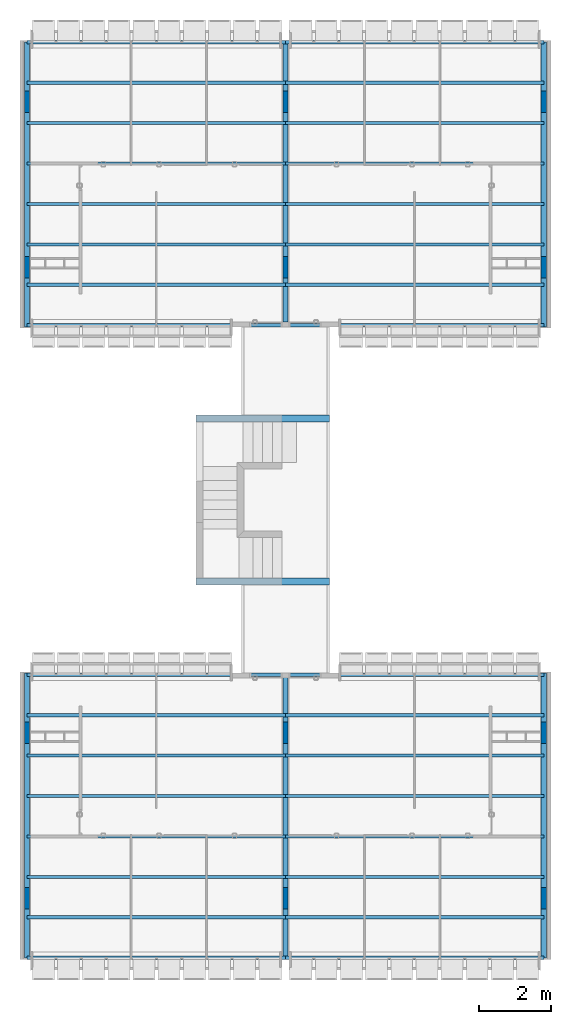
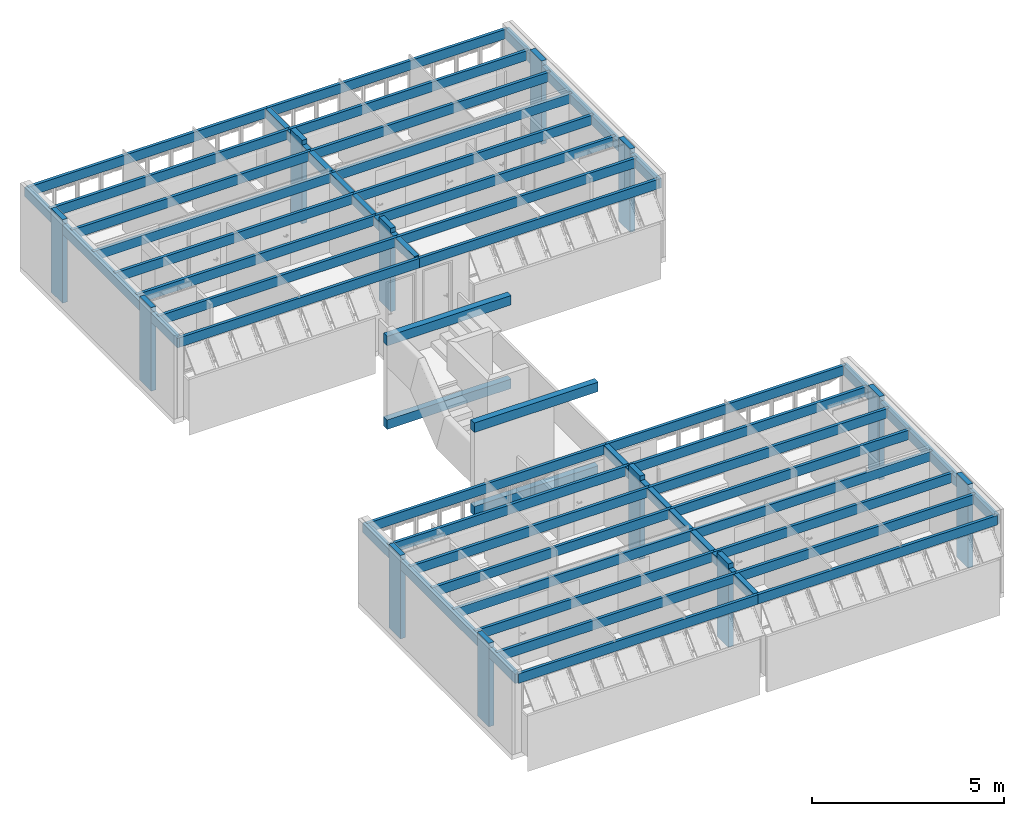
# One storey, part 1 of 40: 42 beams, 12 columns.
"""IFC4 building model written with IfcOpenShell, lengths in millimetres."""

import ifcopenshell
import ifcopenshell.guid

model = None  # the IFC model being written
_history = None  # IfcOwnerHistory: only IFC2X3 demands one
_inside = {}  # id of a spatial element -> (the spatial element, [elements in it])
_under = {}  # id of a project, library or spatial element -> (it, [spatial elements below it])
_declared = {}  # id of a project -> (the project, [libraries it declares])
_typed = {}  # id of a type object -> (the type object, [elements of that type])
_made_of = {}  # id of a material, layer set ... -> (it, [elements and type objects made of it])


def new_model(schema):
    """Start an empty IFC model of exactly this schema.

    Asked for "IFC4X3", IfcOpenShell would pick the latest addendum, in which some entities
    have other attributes; the version numbers below select the first issue.
    IFC2X3 requires an IfcOwnerHistory on every rooted entity: one is made here for all.
    """
    global model, _history
    if schema == "IFC4X3":
        model = ifcopenshell.file(schema_version=(4, 3, 0, 0))
    else:
        model = ifcopenshell.file(schema=schema)
    _inside.clear()
    _under.clear()
    _declared.clear()
    _typed.clear()
    _made_of.clear()
    _history = None
    if model.schema == "IFC2X3":
        org = make("IfcOrganization", Name="unknown")
        user = make(
            "IfcPersonAndOrganization",
            ThePerson=make("IfcPerson", FamilyName="unknown"),
            TheOrganization=org,
        )
        app = make(
            "IfcApplication",
            ApplicationDeveloper=org,
            Version="unknown",
            ApplicationFullName="unknown",
            ApplicationIdentifier="unknown",
        )
        _history = make(
            "IfcOwnerHistory",
            OwningUser=user,
            OwningApplication=app,
            ChangeAction="ADDED",
            CreationDate=0,
        )
    return model


def make(cls, **values):
    """One entity of the class cls with the attributes given. An attribute that is None is left unset."""
    return model.create_entity(
        cls, **{name: value for name, value in values.items() if value is not None}
    )


def entity(cls, *values):
    """Any entity or typed value of the class cls, its attributes in the order of the schema. None: left unset."""
    e = model.create_entity(cls)
    for i, value in enumerate(values):
        if value is not None:
            e[i] = value
    return e


def rooted(cls, **values):
    """An entity with a GlobalId (a new one), such as an element, a storey or a relation."""
    return make(cls, GlobalId=ifcopenshell.guid.new(), OwnerHistory=_history, **values)


def si_unit(unit_type, name, prefix=None):
    """IfcSIUnit, for example si_unit("LENGTHUNIT", "METRE", prefix="MILLI")."""
    return make("IfcSIUnit", UnitType=unit_type, Prefix=prefix, Name=name)


def converted_unit(unit_type, name, factor, base, dimensions=None, offset=None):
    """IfcConversionBasedUnit, such as the inch: factor (a typed value) times the base unit."""
    return make(
        "IfcConversionBasedUnit"
        if offset is None
        else "IfcConversionBasedUnitWithOffset",
        ConversionOffset=offset,
        Dimensions=None
        if dimensions is None
        else entity("IfcDimensionalExponents", *dimensions),
        UnitType=unit_type,
        Name=name,
        ConversionFactor=make(
            "IfcMeasureWithUnit", ValueComponent=factor, UnitComponent=base
        ),
    )


def derived_unit(unit_type, elements):
    """IfcDerivedUnit: a product of units, each with its exponent."""
    return make(
        "IfcDerivedUnit",
        Elements=[
            make("IfcDerivedUnitElement", Unit=unit, Exponent=power)
            for unit, power in elements
        ],
        UnitType=unit_type,
    )


def assignment(units):
    """IfcUnitAssignment: the units of a project."""
    return None if units is None else make("IfcUnitAssignment", Units=units)


def point(xyz):
    """IfcCartesianPoint."""
    return None if xyz is None else make("IfcCartesianPoint", Coordinates=xyz)


def direction(xyz):
    """IfcDirection."""
    return None if xyz is None else make("IfcDirection", DirectionRatios=xyz)


def frame(location, z_axis=None, x_axis=None):
    """IfcAxis2Placement3D, a coordinate frame: its origin and axes. An axis left out is left unset."""
    return make(
        "IfcAxis2Placement3D",
        Location=point(location),
        Axis=direction(z_axis),
        RefDirection=direction(x_axis),
    )


def frame_2d(location, x_axis=None):
    """IfcAxis2Placement2D, a coordinate frame in the plane: its origin and x axis."""
    return make(
        "IfcAxis2Placement2D", Location=point(location), RefDirection=direction(x_axis)
    )


def origin_with_axes():
    """The frame at (0, 0, 0) with the z axis (0, 0, 1) and the x axis (1, 0, 0) written out."""
    return frame((0.0, 0.0, 0.0), z_axis=(0.0, 0.0, 1.0), x_axis=(1.0, 0.0, 0.0))


def origin_2d_with_axis():
    """The frame at (0, 0) in the plane with the x axis (1, 0) written out."""
    return frame_2d((0.0, 0.0), x_axis=(1.0, 0.0))


def place(relative_to, where):
    """IfcLocalPlacement: puts the frame where relative to a parent placement (None: the world)."""
    return make(
        "IfcLocalPlacement", PlacementRelTo=relative_to, RelativePlacement=where
    )


def context(
    kind, dimensions, precision=None, world=None, true_north=None, identifier=None
):
    """IfcGeometricRepresentationContext, for example the 3D "Model" context."""
    return make(
        "IfcGeometricRepresentationContext",
        ContextIdentifier=identifier,
        ContextType=kind,
        CoordinateSpaceDimension=dimensions,
        Precision=precision,
        WorldCoordinateSystem=world,
        TrueNorth=true_north,
    )


def subcontext(parent, identifier, kind, view, scale=None):
    """IfcGeometricRepresentationSubContext, for example "Body" below "Model"."""
    return make(
        "IfcGeometricRepresentationSubContext",
        ContextIdentifier=identifier,
        ContextType=kind,
        ParentContext=parent,
        TargetScale=scale,
        TargetView=view,
    )


def project(units=None, contexts=None):
    """IfcProject with its units and contexts."""
    return rooted(
        "IfcProject",
        Name="project",
        RepresentationContexts=contexts,
        UnitsInContext=assignment(units),
    )


def spatial(cls, under=None, at=None, **own):
    """A site, building, storey or space (cls), placed at a placement, below another one or the project."""
    s = rooted(cls, ObjectPlacement=at, **own)
    if under is not None:
        _under.setdefault(under.id(), (under, []))[1].append(s)
    return s


def profile(cls, at=None, kind="AREA", **sizes):
    """A parametric profile (cls). Its sizes go by their IFC names, for example OverallWidth=200.0."""
    return make(cls, ProfileType=kind, Position=at, **sizes)


def rectangle(**sizes):
    """IfcRectangleProfileDef."""
    return profile("IfcRectangleProfileDef", **sizes)


def extrude(swept, where, along, depth):
    """IfcExtrudedAreaSolid: the profile swept, set in the frame where, extruded along a direction by depth."""
    return make(
        "IfcExtrudedAreaSolid",
        SweptArea=swept,
        Position=where,
        ExtrudedDirection=direction(along),
        Depth=depth,
    )


def shape(context_of_items, identifier, shape_type, items):
    """IfcShapeRepresentation: the items that make up one representation, for example the "Body"."""
    return make(
        "IfcShapeRepresentation",
        ContextOfItems=context_of_items,
        RepresentationIdentifier=identifier,
        RepresentationType=shape_type,
        Items=items,
    )


def material(Name=None, Category=None):
    """IfcMaterial."""
    return make("IfcMaterial", Name=Name, Category=Category)


def made_of(thing, what):
    """Note that an element or type object is made of a material, layer set ...; save() writes the relation."""
    if what is not None:
        _made_of.setdefault(what.id(), (what, []))[1].append(thing)
    return thing


def type_object(cls, material=None, **own):
    """A type object (cls), such as IfcWallType, which elements share."""
    return made_of(rooted(cls, **own), material)


def element(
    cls,
    number,
    at=None,
    inside=None,
    cuts=None,
    type_object=None,
    material=None,
    context=None,
    identifier="Body",
    shape_type=None,
    held_by="IfcProductDefinitionShape",
    body=None,
    shapes=None,
    **own,
):
    """One element of the class cls, such as IfcWall. Its Tag is "e" and its number.

    at: its placement. inside: the storey or other place that contains it. cuts: it is an
    opening in that element (IfcRelVoidsElement). A single representation is given by context,
    identifier, shape_type and body (its items); several are given by shapes. held_by: the class
    of the entity that holds the representations. save() writes the other relations.
    """
    e = rooted(cls, Tag="e%d" % number, ObjectPlacement=at, **own)
    if body is not None:
        shapes = [shape(context, identifier, shape_type, body)]
    if shapes is not None:
        e.Representation = make(held_by, Representations=shapes)
    if inside is not None:
        _inside.setdefault(inside.id(), (inside, []))[1].append(e)
    if cuts is not None:
        rooted(
            "IfcRelVoidsElement", RelatingBuildingElement=cuts, RelatedOpeningElement=e
        )
    if type_object is not None:
        _typed.setdefault(type_object.id(), (type_object, []))[1].append(e)
    return made_of(e, material)


def aggregate(whole, parts):
    """IfcRelAggregates: a whole, such as a stair, and the parts it consists of."""
    return rooted("IfcRelAggregates", RelatingObject=whole, RelatedObjects=parts)


def save(model, path):
    """Write the relations noted so far, then the file.

    IfcRelAggregates (storeys below a building ...), IfcRelContainedInSpatialStructure (elements
    in a storey), IfcRelDefinesByType, IfcRelAssociatesMaterial and IfcRelDeclares: one each for
    every whole, place, type object, material and project.
    """
    for whole, parts in _under.values():
        aggregate(whole, parts)
    for where, things in _inside.values():
        rooted(
            "IfcRelContainedInSpatialStructure",
            RelatedElements=things,
            RelatingStructure=where,
        )
    for kind, things in _typed.values():
        rooted("IfcRelDefinesByType", RelatedObjects=things, RelatingType=kind)
    for what, things in _made_of.values():
        rooted("IfcRelAssociatesMaterial", RelatedObjects=things, RelatingMaterial=what)
    for by, libraries in _declared.values():
        rooted("IfcRelDeclares", RelatingContext=by, RelatedDefinitions=libraries)
    model.write(path)


model = new_model("IFC4")

# Units and contexts
model_context = context("Model", 3, precision=0.01, world=origin_with_axes(), true_north=direction((0.0, 1.0)))
body_context = subcontext(model_context, "Body", "Model", "MODEL_VIEW")
ifc_project = project(units=[si_unit("LENGTHUNIT", "METRE", prefix="MILLI"), si_unit("AREAUNIT", "SQUARE_METRE"), si_unit("VOLUMEUNIT", "CUBIC_METRE"), converted_unit("PLANEANGLEUNIT", "DEGREE", entity("IfcPlaneAngleMeasure", 0.0174532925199), si_unit("PLANEANGLEUNIT", "RADIAN"), dimensions=[0, 0, 0, 0, 0, 0, 0]), converted_unit("TIMEUNIT", "Year", entity("IfcTimeMeasure", 31556926.0), si_unit("TIMEUNIT", "SECOND"), dimensions=[0, 0, 1, 0, 0, 0, 0]), si_unit("MASSUNIT", "GRAM", prefix="KILO"), si_unit("THERMODYNAMICTEMPERATUREUNIT", "DEGREE_CELSIUS"), si_unit("LUMINOUSINTENSITYUNIT", "LUMEN"), si_unit("ENERGYUNIT", "JOULE", prefix="MEGA"), derived_unit("THERMALCONDUCTANCEUNIT", [(si_unit("POWERUNIT", "WATT"), 1), (si_unit("LENGTHUNIT", "METRE"), -1), (si_unit("THERMODYNAMICTEMPERATUREUNIT", "KELVIN"), -1)]), derived_unit("SPECIFICHEATCAPACITYUNIT", [(si_unit("ENERGYUNIT", "JOULE"), 1), (si_unit("MASSUNIT", "GRAM", prefix="KILO"), -1), (si_unit("THERMODYNAMICTEMPERATUREUNIT", "KELVIN"), -1)]), derived_unit("MASSDENSITYUNIT", [(si_unit("MASSUNIT", "GRAM", prefix="KILO"), 1), (si_unit("VOLUMEUNIT", "CUBIC_METRE"), -1)])], contexts=[model_context])

# Site, building, storey
site_placement = place(None, origin_with_axes())
site = spatial("IfcSite", under=ifc_project, at=site_placement, Name="Local", CompositionType="ELEMENT")
building_placement = place(site_placement, origin_with_axes())
building = spatial("IfcBuilding", under=site, at=building_placement, Name="Construção", CompositionType="ELEMENT")
storey_placement = place(building_placement, origin_with_axes())
storey = spatial("IfcBuildingStorey", under=building, at=storey_placement, Name="Primeiro Pavimento", CompositionType="ELEMENT", Elevation=0.0)

# Columns
ifc_material = material(Name="Concreto Armado Moldado in Loco - Estrutural")
column_type = type_object("IfcColumnType", Name="Concreto Armado Moldado in Loco - Estrutural 600 x 150", PredefinedType="NOTDEFINED")
for number, where, z_axis, x_axis, name in (
    (1, (14575.0, 19560.0, 0.0), (0.0, 0.0, 1.0), (0.0, 1.0, 0.0), "APTO4-PILAR-001"),
    (2, (14575.0, 24160.0, 0.0), (0.0, 0.0, 1.0), (0.0, 1.0, 0.0), "APTO4-PILAR-000"),
):
    element("IfcColumn", number, at=place(storey_placement, frame(where, z_axis=z_axis, x_axis=x_axis)), inside=storey, type_object=column_type, material=ifc_material, Name=name, PredefinedType="NOTDEFINED", context=body_context, shape_type="SweptSolid", body=[
        extrude(rectangle(XDim=600.0, YDim=150.0, at=origin_2d_with_axis()), origin_with_axes(), (0.0, 0.0, 1.0), 2650.0),
    ])
for number, where, z_axis, x_axis, name in (
    (3, (14575.0, 2000.0, 0.0), (0.0, 0.0, 1.0), (0.0, 1.0, 0.0), "APTO2-PILAR-000"),
    (4, (14575.0, 6600.0, 0.0), (0.0, 0.0, 1.0), (0.0, 1.0, 0.0), "APTO2-PILAR-001"),
    (5, (195.0, 24160.0, 0.0), (0.0, 0.0, 1.0), (0.0, -1.0, 0.0), "APTO3-PILAR-000"),
    (6, (195.0, 19560.0, 0.0), (0.0, 0.0, 1.0), (0.0, -1.0, 0.0), "APTO3-PILAR-001"),
):
    element("IfcColumn", number, at=place(storey_placement, frame(where, z_axis=z_axis, x_axis=x_axis)), inside=storey, type_object=column_type, material=ifc_material, Name=name, PredefinedType="NOTDEFINED", context=body_context, shape_type="SweptSolid", body=[
        extrude(rectangle(XDim=600.0, YDim=150.0, at=origin_2d_with_axis()), frame((0.0, 0.0, 0.0), z_axis=(0.0, 0.0, -1.0), x_axis=(-1.0, 0.0, 0.0)), (0.0, 0.0, -1.0), 2650.0),
    ])
for number, where, z_axis, x_axis, name in (
    (7, (195.0, 6600.0, 0.0), (0.0, 0.0, 1.0), (0.0, -1.0, 0.0), "APTO1-PILAR-001"),
    (8, (195.0, 2000.0, 0.0), (0.0, 0.0, 1.0), (0.0, -1.0, 0.0), "APTO1-PILAR-000"),
):
    element("IfcColumn", number, at=place(storey_placement, frame(where, z_axis=z_axis, x_axis=x_axis)), inside=storey, type_object=column_type, material=ifc_material, Name=name, PredefinedType="NOTDEFINED", context=body_context, shape_type="SweptSolid", body=[
        extrude(rectangle(XDim=600.0, YDim=150.0, at=origin_2d_with_axis()), origin_with_axes(), (0.0, 0.0, 1.0), 2650.0),
    ])
column_1_placement = place(storey_placement, frame((7385.0, 19560.0, 0.0), z_axis=(0.0, 0.0, 1.0), x_axis=(0.0, -1.0, 0.0)))
element("IfcColumn", 9, at=column_1_placement, inside=storey, type_object=column_type, material=ifc_material, Name="CIRC1-PILAR-004", PredefinedType="NOTDEFINED", context=body_context, shape_type="SweptSolid", body=[
    extrude(rectangle(XDim=600.0, YDim=150.0, at=origin_2d_with_axis()), frame((0.0, 0.0, 0.0), z_axis=(0.0, 0.0, -1.0), x_axis=(-1.0, 0.0, 0.0)), (0.0, 0.0, -1.0), 2650.0),
])
for number, where, z_axis, x_axis, name in (
    (10, (7385.0, 2000.0, 0.0), (0.0, 0.0, 1.0), (0.0, -1.0, 0.0), "CIRC1-PILAR-002"),
    (11, (7385.0, 6600.0, 0.0), (0.0, 0.0, 1.0), (0.0, -1.0, 0.0), "CIRC1-PILAR-003"),
):
    element("IfcColumn", number, at=place(storey_placement, frame(where, z_axis=z_axis, x_axis=x_axis)), inside=storey, type_object=column_type, material=ifc_material, Name=name, PredefinedType="NOTDEFINED", context=body_context, shape_type="SweptSolid", body=[
        extrude(rectangle(XDim=600.0, YDim=150.0, at=origin_2d_with_axis()), origin_with_axes(), (0.0, 0.0, 1.0), 2650.0),
    ])
column_2_placement = place(storey_placement, frame((7385.0, 24160.0, 0.0), z_axis=(0.0, 0.0, 1.0), x_axis=(0.0, -1.0, 0.0)))
element("IfcColumn", 12, at=column_2_placement, inside=storey, type_object=column_type, material=ifc_material, Name="CIRC1-PILAR-005", PredefinedType="NOTDEFINED", context=body_context, shape_type="SweptSolid", body=[
    extrude(rectangle(XDim=600.0, YDim=150.0, at=origin_2d_with_axis()), frame((0.0, 0.0, 0.0), z_axis=(0.0, 0.0, -1.0), x_axis=(-1.0, 0.0, 0.0)), (0.0, 0.0, -1.0), 2650.0),
])

# Beams
beam_type_1 = type_object("IfcBeamType", Name="Concreto Armado Moldado in Loco - Estrutural 150 x 300", PredefinedType="NOTDEFINED")
beam_1_placement = place(storey_placement, frame((14500.0, 17895.0, 2500.0), z_axis=(0.0, 0.0, 1.0), x_axis=(1.0, 0.0, 0.0)))
element("IfcBeam", 13, at=beam_1_placement, inside=storey, type_object=beam_type_1, material=ifc_material, Name="APTO4-VIGA-009", PredefinedType="NOTDEFINED", context=body_context, shape_type="SweptSolid", body=[
    extrude(rectangle(XDim=300.0, YDim=150.0, at=frame_2d((-150.0, 75.0), x_axis=(1.0, 0.0))), frame((0.0, 0.0, 0.0), z_axis=(0.0, 1.0, 0.0), x_axis=(0.0, 0.0, 1.0)), (0.0, 0.0, 1.0), 7929.97902127),
])
for number, where, z_axis, x_axis, name in (
    (14, (14500.0, 8265.0, 2500.0), (0.0, 0.0, 1.0), (-1.0, 0.0, 0.0), "APTO2-VIGA-009"),
    (15, (270.0, 17895.0, 2500.0), (0.0, 0.0, 1.0), (1.0, 0.0, 0.0), "APTO3-VIGA-009"),
):
    element("IfcBeam", number, at=place(storey_placement, frame(where, z_axis=z_axis, x_axis=x_axis)), inside=storey, type_object=beam_type_1, material=ifc_material, Name=name, PredefinedType="NOTDEFINED", context=body_context, shape_type="SweptSolid", body=[
        extrude(rectangle(XDim=300.0, YDim=150.0, at=frame_2d((-150.0, -75.0), x_axis=(1.0, 0.0))), frame((0.0, 0.0, 0.0), z_axis=(0.0, 1.0, 0.0), x_axis=(0.0, 0.0, 1.0)), (0.0, 0.0, 1.0), 7929.97902127),
    ])
for number, where, z_axis, x_axis, name in (
    (16, (270.0, 8265.0, 2500.0), (0.0, 0.0, 1.0), (-1.0, 0.0, 0.0), "APTO1-VIGA-009"),
    (17, (7460.0, 8265.0, 2500.0), (0.0, 0.0, 1.0), (-1.0, 0.0, 0.0), "CIRC1-VIGA-012"),
):
    element("IfcBeam", number, at=place(storey_placement, frame(where, z_axis=z_axis, x_axis=x_axis)), inside=storey, type_object=beam_type_1, material=ifc_material, Name=name, PredefinedType="NOTDEFINED", context=body_context, shape_type="SweptSolid", body=[
        extrude(rectangle(XDim=300.0, YDim=150.0, at=frame_2d((-150.0, 75.0), x_axis=(1.0, 0.0))), frame((0.0, 0.0, 0.0), z_axis=(0.0, 1.0, 0.0), x_axis=(0.0, 0.0, 1.0)), (0.0, 0.0, 1.0), 7929.97902127),
    ])
beam_2_placement = place(storey_placement, frame((7460.0, 25860.0, 2500.0), z_axis=(0.0, 0.0, 1.0), x_axis=(-1.0, 0.0, 0.0)))
element("IfcBeam", 18, at=beam_2_placement, inside=storey, type_object=beam_type_1, material=ifc_material, Name="VIGA-037", PredefinedType="NOTDEFINED", context=body_context, shape_type="SweptSolid", body=[
    extrude(rectangle(XDim=300.0, YDim=150.0, at=frame_2d((-150.0, 75.0), x_axis=(1.0, 0.0))), frame((0.0, 0.0, 0.0), z_axis=(0.0, 1.0, 0.0), x_axis=(0.0, 0.0, 1.0)), (0.0, 0.0, 1.0), 7825.0),
])
beam_type_2 = type_object("IfcBeamType", Name="Concreto Armado Moldado in Loco - Estrutural 90 x 300", PredefinedType="NOTDEFINED")
for number, where, z_axis, x_axis, name in (
    (19, (14575.0, 19020.0, 2500.0), (0.0, 0.0, 1.0), (0.0, 1.0, 0.0), "APTO4-VIGA-007"),
    (20, (14575.0, 20145.0, 2500.0), (0.0, 0.0, 1.0), (0.0, 1.0, 0.0), "APTO4-VIGA-006"),
    (21, (14575.0, 17895.0, 2500.0), (0.0, 0.0, 1.0), (0.0, 1.0, 0.0), "APTO4-VIGA-008"),
    (22, (14575.0, 21270.0, 2500.0), (0.0, 0.0, 1.0), (0.0, 1.0, 0.0), "APTO4-VIGA-005"),
    (23, (14575.0, 22394.7804333, 2500.0), (0.0, 0.0, 1.0), (0.0, 1.0, 0.0), "APTO4-VIGA-004"),
    (24, (14575.0, 23520.0, 2500.0), (0.0, 0.0, 1.0), (0.0, 1.0, 0.0), "APTO4-VIGA-003"),
    (25, (14575.0, 24645.0, 2500.0), (0.0, 0.0, 1.0), (0.0, 1.0, 0.0), "APTO4-VIGA-002"),
    (26, (14575.0, 25770.0, 2500.0), (0.0, 0.0, 1.0), (0.0, 1.0, 0.0), "APTO4-VIGA-001"),
):
    element("IfcBeam", number, at=place(storey_placement, frame(where, z_axis=z_axis, x_axis=x_axis)), inside=storey, type_object=beam_type_2, material=ifc_material, Name=name, PredefinedType="NOTDEFINED", context=body_context, shape_type="SweptSolid", body=[
        extrude(rectangle(XDim=300.0, YDim=90.0, at=frame_2d((-150.0, 45.0), x_axis=(1.0, 0.0))), frame((0.0, 0.0, 0.0), z_axis=(0.0, 1.0, 0.0), x_axis=(0.0, 0.0, 1.0)), (0.0, 0.0, 1.0), 7190.0),
    ])
for number, where, z_axis, x_axis, name in (
    (27, (14575.0, 390.0, 2500.0), (0.0, 0.0, 1.0), (0.0, 1.0, 0.0), "APTO2-VIGA-001"),
    (28, (14575.0, 1515.0, 2500.0), (0.0, 0.0, 1.0), (0.0, 1.0, 0.0), "APTO2-VIGA-002"),
    (29, (14575.0, 2640.0, 2500.0), (0.0, 0.0, 1.0), (0.0, 1.0, 0.0), "APTO2-VIGA-003"),
    (30, (14575.0, 3765.2195667, 2500.0), (0.0, 0.0, 1.0), (0.0, 1.0, 0.0), "APTO2-VIGA-004"),
    (31, (14575.0, 4890.0, 2500.0), (0.0, 0.0, 1.0), (0.0, 1.0, 0.0), "APTO2-VIGA-005"),
    (32, (14575.0, 8265.0, 2500.0), (0.0, 0.0, 1.0), (0.0, 1.0, 0.0), "APTO2-VIGA-008"),
    (33, (14575.0, 6015.0, 2500.0), (0.0, 0.0, 1.0), (0.0, 1.0, 0.0), "APTO2-VIGA-006"),
    (34, (14575.0, 7140.0, 2500.0), (0.0, 0.0, 1.0), (0.0, 1.0, 0.0), "APTO2-VIGA-007"),
    (35, (195.0, 25770.0, 2500.0), (0.0, 0.0, 1.0), (0.0, -1.0, 0.0), "APTO3-VIGA-001"),
    (36, (195.0, 24645.0, 2500.0), (0.0, 0.0, 1.0), (0.0, -1.0, 0.0), "APTO3-VIGA-002"),
    (37, (195.0, 23520.0, 2500.0), (0.0, 0.0, 1.0), (0.0, -1.0, 0.0), "APTO3-VIGA-003"),
    (38, (195.0, 22394.7804333, 2500.0), (0.0, 0.0, 1.0), (0.0, -1.0, 0.0), "APTO3-VIGA-004"),
    (39, (195.0, 21270.0, 2500.0), (0.0, 0.0, 1.0), (0.0, -1.0, 0.0), "APTO3-VIGA-005"),
    (40, (195.0, 17895.0, 2500.0), (0.0, 0.0, 1.0), (0.0, -1.0, 0.0), "APTO3-VIGA-008"),
    (41, (195.0, 20145.0, 2500.0), (0.0, 0.0, 1.0), (0.0, -1.0, 0.0), "APTO3-VIGA-006"),
    (42, (195.0, 19020.0, 2500.0), (0.0, 0.0, 1.0), (0.0, -1.0, 0.0), "APTO3-VIGA-007"),
):
    element("IfcBeam", number, at=place(storey_placement, frame(where, z_axis=z_axis, x_axis=x_axis)), inside=storey, type_object=beam_type_2, material=ifc_material, Name=name, PredefinedType="NOTDEFINED", context=body_context, shape_type="SweptSolid", body=[
        extrude(rectangle(XDim=300.0, YDim=90.0, at=frame_2d((-150.0, -45.0), x_axis=(1.0, 0.0))), frame((0.0, 0.0, 0.0), z_axis=(0.0, 1.0, 0.0), x_axis=(0.0, 0.0, 1.0)), (0.0, 0.0, 1.0), 7190.0),
    ])
for number, where, z_axis, x_axis, name in (
    (43, (195.0, 7140.0, 2500.0), (0.0, 0.0, 1.0), (0.0, -1.0, 0.0), "APTO1-VIGA-007"),
    (44, (195.0, 6015.0, 2500.0), (0.0, 0.0, 1.0), (0.0, -1.0, 0.0), "APTO1-VIGA-006"),
    (45, (195.0, 8265.0, 2500.0), (0.0, 0.0, 1.0), (0.0, -1.0, 0.0), "APTO1-VIGA-008"),
    (46, (195.0, 4890.0, 2500.0), (0.0, 0.0, 1.0), (0.0, -1.0, 0.0), "APTO1-VIGA-005"),
    (47, (195.0, 3765.2195667, 2500.0), (0.0, 0.0, 1.0), (0.0, -1.0, 0.0), "APTO1-VIGA-004"),
    (48, (195.0, 2640.0, 2500.0), (0.0, 0.0, 1.0), (0.0, -1.0, 0.0), "APTO1-VIGA-003"),
    (49, (195.0, 1515.0, 2500.0), (0.0, 0.0, 1.0), (0.0, -1.0, 0.0), "APTO1-VIGA-002"),
    (50, (195.0, 390.0, 2500.0), (0.0, 0.0, 1.0), (0.0, -1.0, 0.0), "APTO1-VIGA-001"),
):
    element("IfcBeam", number, at=place(storey_placement, frame(where, z_axis=z_axis, x_axis=x_axis)), inside=storey, type_object=beam_type_2, material=ifc_material, Name=name, PredefinedType="NOTDEFINED", context=body_context, shape_type="SweptSolid", body=[
        extrude(rectangle(XDim=300.0, YDim=90.0, at=frame_2d((-150.0, 45.0), x_axis=(1.0, 0.0))), frame((0.0, 0.0, 0.0), z_axis=(0.0, 1.0, 0.0), x_axis=(0.0, 0.0, 1.0)), (0.0, 0.0, 1.0), 7190.0),
    ])
beam_type_3 = type_object("IfcBeamType", Name="Concreto Armado Moldado in Loco - Estrutural 190 x 300", PredefinedType="NOTDEFINED")
for number, where, z_axis, x_axis, name in (
    (51, (4890.0, 15345.0, -300.0), (0.0, 0.0, 1.0), (0.0, -1.0, 0.0), "VIGA-030"),
    (52, (4890.0, 10815.0, -300.0), (0.0, 0.0, 1.0), (0.0, -1.0, 0.0), "VIGA-029"),
    (53, (4890.0, 15345.0, 2350.0), (0.0, 0.0, 1.0), (0.0, -1.0, 0.0), "CIRC1-VIGA-011"),
    (54, (4890.0, 10815.0, 2350.0), (0.0, 0.0, 1.0), (0.0, -1.0, 0.0), "CIRC1-VIGA-010"),
):
    element("IfcBeam", number, at=place(storey_placement, frame(where, z_axis=z_axis, x_axis=x_axis)), inside=storey, type_object=beam_type_3, material=ifc_material, Name=name, PredefinedType="NOTDEFINED", context=body_context, shape_type="SweptSolid", body=[
        extrude(rectangle(XDim=300.0, YDim=190.0, at=origin_2d_with_axis()), frame((0.0, 0.0, 0.0), z_axis=(0.0, 1.0, 0.0), x_axis=(0.0, 0.0, 1.0)), (0.0, 0.0, 1.0), 3720.0),
    ])

save(model, "model.ifc")
